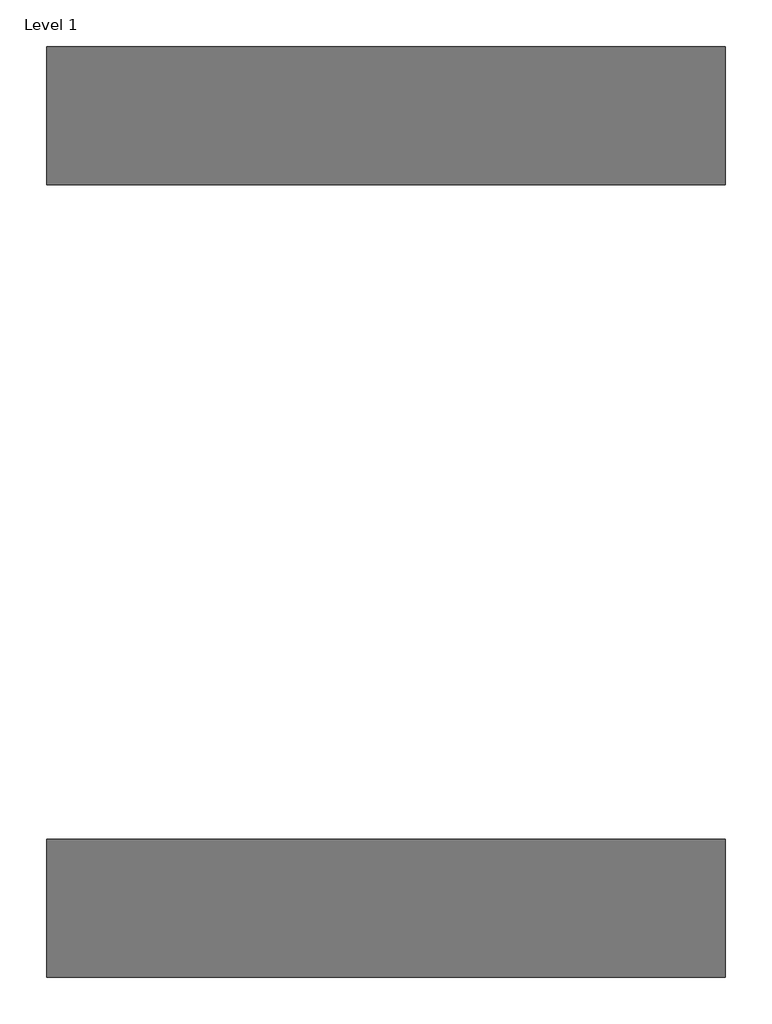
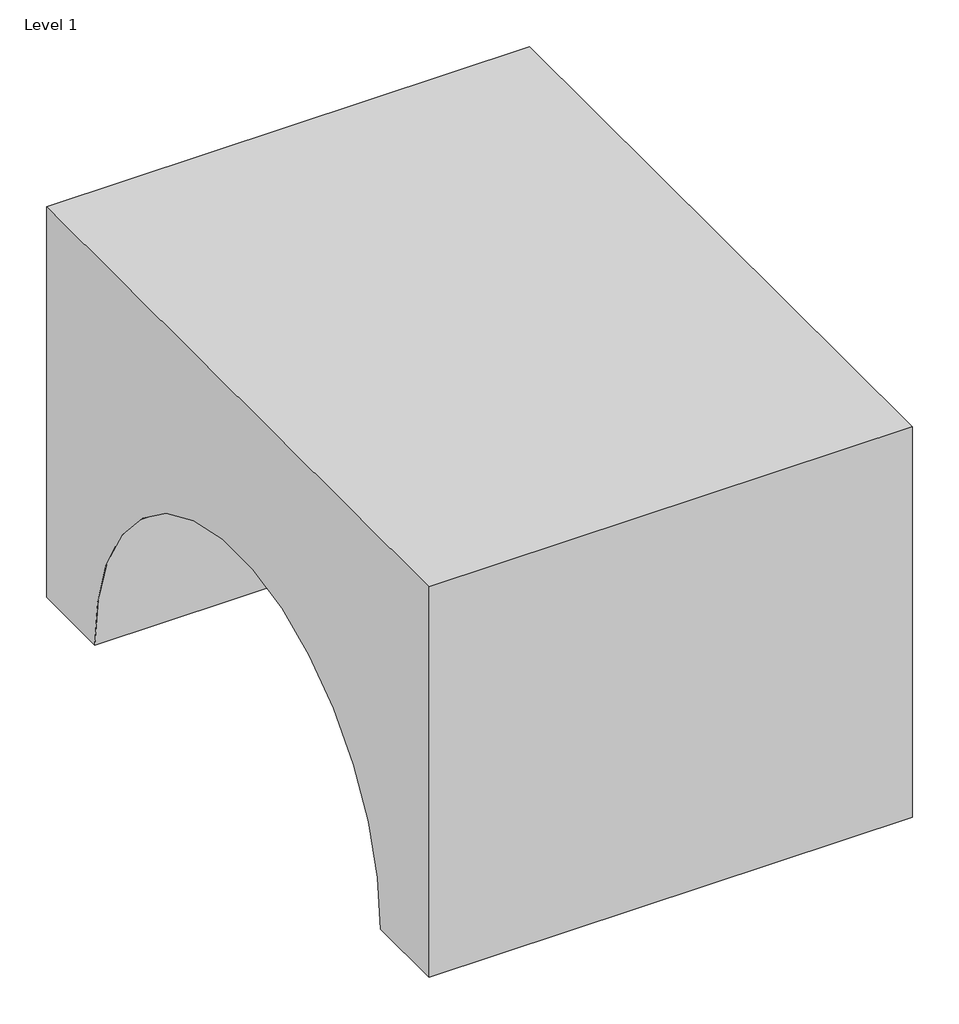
# One storey: 1 proxy.
"""IFC4 building model written with IfcOpenShell, lengths in millimetres."""

from ifc_helpers import new_model, si_unit, point, frame, frame_2d, origin, place, context, project, spatial, polyline, circle_curve, trimmed, segment, composite_curve, outline, extrude, element, save

model = new_model("IFC4")

# Units and contexts
model_context = context("Model", 3, world=origin())
ifc_project = project(units=[si_unit("LENGTHUNIT", "METRE", prefix="MILLI")], contexts=[model_context])

# Site, building, storey
site = spatial("IfcSite", under=ifc_project)
building = spatial("IfcBuilding", under=site)
storey = spatial("IfcBuildingStorey", under=building, Name="Level 1", Elevation=0.0)

# Proxy
placement = place(None, origin())
element("IfcBuildingElementProxy", 1, Name="Mass 1 : Mass 1", ObjectType="Mass 1 : Mass 1", at=placement, inside=storey, context=model_context, shape_type="SweptSolid", body=[
    extrude(outline(composite_curve([segment(polyline([(-1209.9456226, 6096.0), (8579.3640575, 6096.0), (8579.3640575, 0.0), (7342.3092174, 0.0)]), True, "CONTINUOUS"), segment(trimmed(circle_curve(frame_2d((3684.7092174, 0.0)), 3657.6), [point((7342.3092174, 0.0))], [point((27.1092174, 0.0))], True, "CARTESIAN"), True, "CONTINUOUS"), segment(polyline([(27.1092174, 0.0), (-1209.9456226, 0.0), (-1209.9456226, 6096.0)]), True, "CONTINUOUS")], self_intersect=False)), frame((-1860.5920658, 0.0, 0.0), z_axis=(1.0, 0.0, 0.0), x_axis=(0.0, 1.0, 0.0)), (0.0, 0.0, 1.0), 7136.8922457),
])

save(model, "model.ifc")
